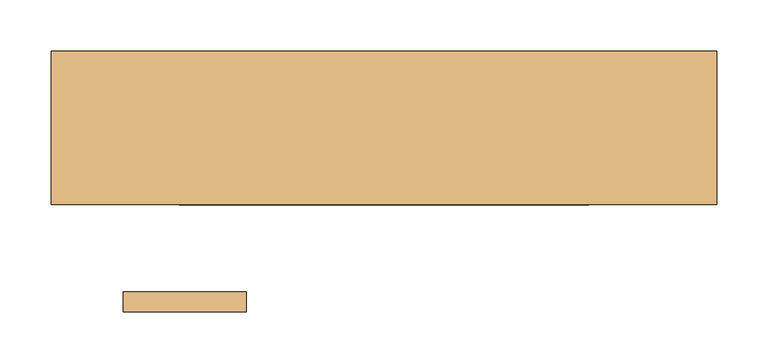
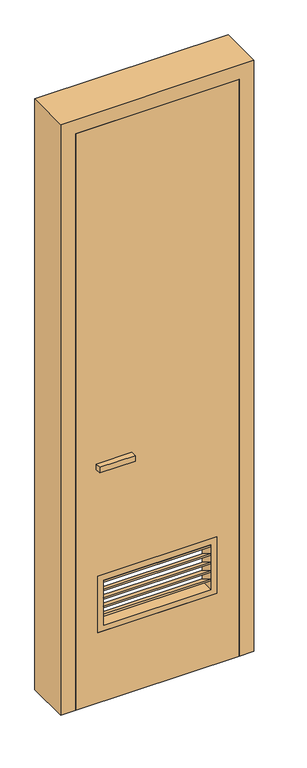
"""IFC4 building model written with IfcOpenShell, lengths in millimetres: door geometry, ARQ-PU-INT-90x210-Mad-C2 : ARQ-PU-INT-65x210-Mad."""

from ifc_helpers import new_model, si_unit, frame, origin, place, context, project, spatial, polyline, outline, extrude, source, transform, mapped, element, save


def door_fea13e06(model_context):
    return source(origin(), model_context, "Body", "SweptSolid", [
        extrude(outline(polyline([(2100.0, -325.0), (0.0, -325.0), (0.0, -275.0), (2050.0, -275.0), (2050.0, 275.0), (0.0, 275.0), (0.0, 325.0), (2100.0, 325.0), (2100.0, -325.0)])), frame((0.0, -75.0, 0.0), z_axis=(0.0, 1.0, 0.0), x_axis=(0.0, 0.0, 1.0)), (0.0, 0.0, 1.0), 150.0),
        extrude(outline(polyline([(0.0, -55.4154803), (0.0, 0.0), (360.0, 0.0), (360.0, -55.4154803), (0.0, -55.4154803)])), frame((180.0, -75.1127884, 421.6870193), z_axis=(0.0, 0.514495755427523, 0.8574929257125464), x_axis=(-1.0, 0.0, 0.0)), (0.0, 0.0, 1.0), 5.042619),
        extrude(outline(polyline([(0.0, -55.4154803), (0.0, 0.0), (360.0, 0.0), (360.0, -55.4154803), (0.0, -55.4154803)])), frame((180.0, -75.1127884, 391.6870193), z_axis=(0.0, 0.5144957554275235, 0.8574929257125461), x_axis=(-1.0, 0.0, 0.0)), (0.0, 0.0, 1.0), 5.042619),
        extrude(outline(polyline([(0.0, -55.4154803), (0.0, 0.0), (360.0, 0.0), (360.0, -55.4154803), (0.0, -55.4154803)])), frame((180.0, -75.1127884, 361.6870193), z_axis=(0.0, 0.5144957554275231, 0.8574929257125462), x_axis=(-1.0, 0.0, 0.0)), (0.0, 0.0, 1.0), 5.042619),
        extrude(outline(polyline([(0.0, -55.4154803), (0.0, 0.0), (360.0, 0.0), (360.0, -55.4154803), (0.0, -55.4154803)])), frame((180.0, -75.1127884, 331.6870193), z_axis=(0.0, 0.5144957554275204, 0.8574929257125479), x_axis=(-1.0, 0.0, 0.0)), (0.0, 0.0, 1.0), 5.042619),
        extrude(outline(polyline([(0.0, -55.4154803), (0.0, 0.0), (360.0, 0.0), (360.0, -55.4154803), (0.0, -55.4154803)])), frame((180.0, -75.1127884, 301.6870193), z_axis=(0.0, 0.5144957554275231, 0.8574929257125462), x_axis=(-1.0, 0.0, 0.0)), (0.0, 0.0, 1.0), 5.042619),
        extrude(outline(polyline([(450.0, 200.0), (450.0, -200.0), (250.0, -200.0), (250.0, 200.0), (450.0, 200.0)]), holes=[polyline([(430.0, 180.0), (270.0, 180.0), (270.0, -180.0), (430.0, -180.0), (430.0, 180.0)])]), frame((0.0, -75.0, 0.0), z_axis=(0.0, 1.0, 0.0), x_axis=(0.0, 0.0, 1.0)), (0.0, 0.0, 1.0), 50.0),
        extrude(outline(polyline([(-254.6774814, -160.0), (-134.6774814, -160.0), (-134.6774814, -179.6001051), (-254.6774814, -179.6001051), (-254.6774814, -160.0)])), frame((0.0, 0.0, 900.0), z_axis=(0.0, 0.0, 1.0), x_axis=(1.0, 0.0, 0.0)), (0.0, 0.0, 1.0), 20.0),
        extrude(outline(polyline([(-134.6774814, -15.0), (-254.6774814, -15.0), (-254.6774814, 5.0), (-134.6774814, 5.0), (-134.6774814, -15.0)])), frame((0.0, 0.0, 900.0), z_axis=(0.0, 0.0, 1.0), x_axis=(1.0, 0.0, 0.0)), (0.0, 0.0, 1.0), 20.0),
        extrude(outline(polyline([(2050.0, 275.0), (2050.0, -275.0), (0.0, -275.0), (0.0, 275.0), (2050.0, 275.0)]), holes=[polyline([(450.0, 200.0), (250.0, 200.0), (250.0, -200.0), (450.0, -200.0), (450.0, 200.0)])]), frame((0.0, -75.0, 0.0), z_axis=(0.0, 1.0, 0.0), x_axis=(0.0, 0.0, 1.0)), (0.0, 0.0, 1.0), 50.0),
    ])


if __name__ == "__main__":
    model = new_model("IFC4")
    model_context = context("Model", 3, world=origin())
    ifc_project = project(units=[si_unit("LENGTHUNIT", "METRE", prefix="MILLI")], contexts=[model_context])
    site = spatial("IfcSite", under=ifc_project)
    building = spatial("IfcBuilding", under=site)
    placement = place(None, origin())
    door_shape = door_fea13e06(model_context)
    element("IfcDoor", 1, ObjectType="ARQ-PU-INT-90x210-Mad-C2 : ARQ-PU-INT-65x210-Mad", at=placement, inside=building, context=model_context, shape_type="MappedRepresentation", body=[
        mapped(door_shape, transform((0.0, 0.0, 0.0), x_axis=(1.0, 0.0, 0.0), y_axis=(0.0, 1.0, 0.0), z_axis=(0.0, 0.0, 1.0))),
    ])
    save(model, "model.ifc")
